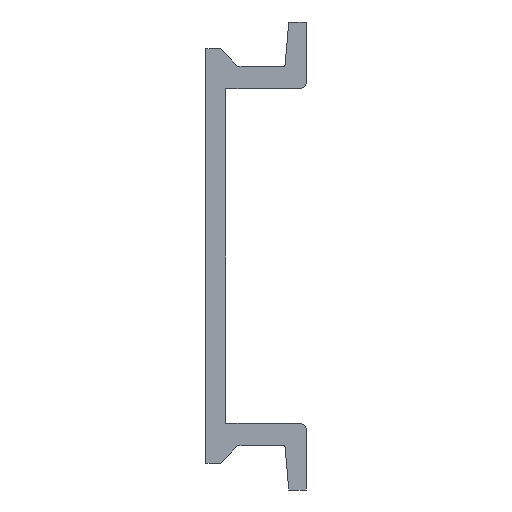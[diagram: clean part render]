
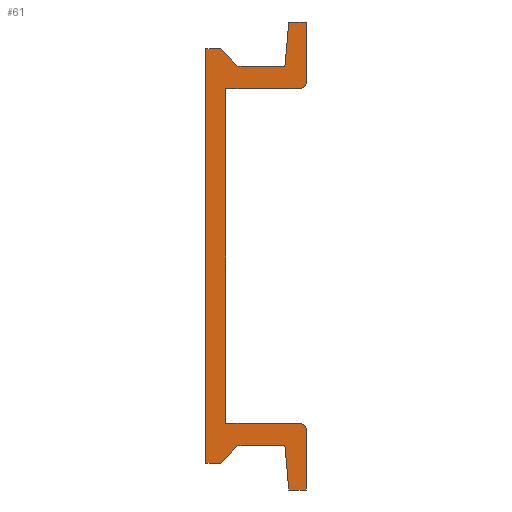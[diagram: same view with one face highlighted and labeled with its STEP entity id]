
A CAD part, left-side view. The second image highlights one B-rep face of the part: STEP entity #61.
In plain terms, the highlighted planar face has unit normal (-1, 0, 0).
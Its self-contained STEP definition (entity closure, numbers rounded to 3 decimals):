
#61=ADVANCED_FACE('',(#325),#324,.F.);
#324=PLANE('',#800);
#325=FACE_OUTER_BOUND('',#801,.T.);
#797=CARTESIAN_POINT('',(0.,-8.25,21.));
#798=DIRECTION('',(1.,0.,0.));
#799=DIRECTION('',(0.,0.,-1.));
#800=AXIS2_PLACEMENT_3D('',#797,#798,#799);
#801=EDGE_LOOP('',(#1142,#1143,#1144,#1145,#1146,#1147,#1148,#1149,#1150,#1151,#1152,#1153,#1154,#1155,#1156,#1157,#1158,#1159));
#1142=ORIENTED_EDGE('',*,*,#1303,.T.);
#1143=ORIENTED_EDGE('',*,*,#1307,.T.);
#1144=ORIENTED_EDGE('',*,*,#1423,.T.);
#1145=ORIENTED_EDGE('',*,*,#1420,.T.);
#1146=ORIENTED_EDGE('',*,*,#1417,.T.);
#1147=ORIENTED_EDGE('',*,*,#1414,.T.);
#1148=ORIENTED_EDGE('',*,*,#1411,.T.);
#1149=ORIENTED_EDGE('',*,*,#1408,.T.);
#1150=ORIENTED_EDGE('',*,*,#1405,.T.);
#1151=ORIENTED_EDGE('',*,*,#1402,.T.);
#1152=ORIENTED_EDGE('',*,*,#1365,.T.);
#1153=ORIENTED_EDGE('',*,*,#1362,.T.);
#1154=ORIENTED_EDGE('',*,*,#1359,.T.);
#1155=ORIENTED_EDGE('',*,*,#1356,.T.);
#1156=ORIENTED_EDGE('',*,*,#1353,.T.);
#1157=ORIENTED_EDGE('',*,*,#1350,.T.);
#1158=ORIENTED_EDGE('',*,*,#1347,.T.);
#1159=ORIENTED_EDGE('',*,*,#1344,.T.);
#1303=EDGE_CURVE('',#1506,#1507,#1508,.T.);
#1307=EDGE_CURVE('',#1507,#1534,#1535,.T.);
#1344=EDGE_CURVE('',#1791,#1506,#1792,.T.);
#1347=EDGE_CURVE('',#1811,#1791,#1812,.T.);
#1350=EDGE_CURVE('',#1831,#1811,#1832,.T.);
#1353=EDGE_CURVE('',#1851,#1831,#1852,.T.);
#1356=EDGE_CURVE('',#1871,#1851,#1872,.T.);
#1359=EDGE_CURVE('',#1891,#1871,#1892,.T.);
#1362=EDGE_CURVE('',#1911,#1891,#1912,.T.);
#1365=EDGE_CURVE('',#1931,#1911,#1932,.T.);
#1402=EDGE_CURVE('',#2188,#1931,#2189,.T.);
#1405=EDGE_CURVE('',#2208,#2188,#2209,.T.);
#1408=EDGE_CURVE('',#2228,#2208,#2229,.T.);
#1411=EDGE_CURVE('',#2248,#2228,#2249,.T.);
#1414=EDGE_CURVE('',#2268,#2248,#2269,.T.);
#1417=EDGE_CURVE('',#2288,#2268,#2289,.T.);
#1420=EDGE_CURVE('',#2308,#2288,#2309,.T.);
#1423=EDGE_CURVE('',#1534,#2308,#2328,.T.);
#1506=VERTEX_POINT('',#2567);
#1507=VERTEX_POINT('',#2568);
#1508=LINE('',#2569,#2570);
#1534=VERTEX_POINT('',#2583);
#1535=LINE('',#2584,#2585);
#1791=VERTEX_POINT('',#2746);
#1792=CIRCLE('',#2750,0.5);
#1811=VERTEX_POINT('',#2759);
#1812=LINE('',#2760,#2761);
#1831=VERTEX_POINT('',#2770);
#1832=LINE('',#2771,#2772);
#1851=VERTEX_POINT('',#2781);
#1852=LINE('',#2782,#2783);
#1871=VERTEX_POINT('',#2792);
#1872=LINE('',#2793,#2794);
#1891=VERTEX_POINT('',#2803);
#1892=LINE('',#2804,#2805);
#1911=VERTEX_POINT('',#2814);
#1912=LINE('',#2815,#2816);
#1931=VERTEX_POINT('',#2825);
#1932=LINE('',#2826,#2827);
#2188=VERTEX_POINT('',#2988);
#2189=LINE('',#2989,#2990);
#2208=VERTEX_POINT('',#2999);
#2209=LINE('',#3000,#3001);
#2228=VERTEX_POINT('',#3010);
#2229=LINE('',#3011,#3012);
#2248=VERTEX_POINT('',#3021);
#2249=LINE('',#3022,#3023);
#2268=VERTEX_POINT('',#3032);
#2269=LINE('',#3033,#3034);
#2288=VERTEX_POINT('',#3043);
#2289=LINE('',#3044,#3045);
#2308=VERTEX_POINT('',#3054);
#2309=CIRCLE('',#3058,0.5);
#2328=LINE('',#3067,#3068);
#2567=CARTESIAN_POINT('',(0.,-7.,-12.5));
#2568=CARTESIAN_POINT('',(0.,-1.5,-12.5));
#2569=CARTESIAN_POINT('',(0.,-7.,-12.5));
#2570=VECTOR('',#2571,5.5);
#2571=DIRECTION('',(0.,1.,0.));
#2583=CARTESIAN_POINT('',(0.,-1.5,12.5));
#2584=CARTESIAN_POINT('',(0.,-1.5,-12.5));
#2585=VECTOR('',#2586,25.);
#2586=DIRECTION('',(0.,0.,1.));
#2746=CARTESIAN_POINT('',(0.,-7.5,-13.));
#2747=CARTESIAN_POINT('',(0.,-7.,-13.));
#2748=DIRECTION('',(-1.,0.,0.));
#2749=DIRECTION('',(0.,0.,1.));
#2750=AXIS2_PLACEMENT_3D('',#2747,#2748,#2749);
#2759=CARTESIAN_POINT('',(0.,-7.5,-17.5));
#2760=CARTESIAN_POINT('',(0.,-7.5,-17.5));
#2761=VECTOR('',#2762,4.5);
#2762=DIRECTION('',(0.,0.,1.));
#2770=CARTESIAN_POINT('',(0.,-6.2,-17.5));
#2771=CARTESIAN_POINT('',(0.,-6.2,-17.5));
#2772=VECTOR('',#2773,1.3);
#2773=DIRECTION('',(0.,-1.,0.));
#2781=CARTESIAN_POINT('',(0.,-5.911,-14.2));
#2782=CARTESIAN_POINT('',(0.,-5.911,-14.2));
#2783=VECTOR('',#2784,3.313);
#2784=DIRECTION('',(0.,-0.087,-0.996));
#2792=CARTESIAN_POINT('',(0.,-2.4,-14.2));
#2793=CARTESIAN_POINT('',(0.,-2.4,-14.2));
#2794=VECTOR('',#2795,3.511);
#2795=DIRECTION('',(0.,-1.,0.));
#2803=CARTESIAN_POINT('',(0.,-1.1,-15.5));
#2804=CARTESIAN_POINT('',(0.,-1.1,-15.5));
#2805=VECTOR('',#2806,1.838);
#2806=DIRECTION('',(0.,-0.707,0.707));
#2814=CARTESIAN_POINT('',(0.,0.,-15.5));
#2815=CARTESIAN_POINT('',(0.,0.,-15.5));
#2816=VECTOR('',#2817,1.1);
#2817=DIRECTION('',(0.,-1.,0.));
#2825=CARTESIAN_POINT('',(0.,0.,15.5));
#2826=CARTESIAN_POINT('',(0.,0.,15.5));
#2827=VECTOR('',#2828,31.);
#2828=DIRECTION('',(0.,0.,-1.));
#2988=CARTESIAN_POINT('',(0.,-1.1,15.5));
#2989=CARTESIAN_POINT('',(0.,-1.1,15.5));
#2990=VECTOR('',#2991,1.1);
#2991=DIRECTION('',(0.,1.,0.));
#2999=CARTESIAN_POINT('',(0.,-2.4,14.2));
#3000=CARTESIAN_POINT('',(0.,-2.4,14.2));
#3001=VECTOR('',#3002,1.838);
#3002=DIRECTION('',(0.,0.707,0.707));
#3010=CARTESIAN_POINT('',(0.,-5.911,14.2));
#3011=CARTESIAN_POINT('',(0.,-5.911,14.2));
#3012=VECTOR('',#3013,3.511);
#3013=DIRECTION('',(0.,1.,0.));
#3021=CARTESIAN_POINT('',(0.,-6.2,17.5));
#3022=CARTESIAN_POINT('',(0.,-6.2,17.5));
#3023=VECTOR('',#3024,3.313);
#3024=DIRECTION('',(0.,0.087,-0.996));
#3032=CARTESIAN_POINT('',(0.,-7.5,17.5));
#3033=CARTESIAN_POINT('',(0.,-7.5,17.5));
#3034=VECTOR('',#3035,1.3);
#3035=DIRECTION('',(0.,1.,0.));
#3043=CARTESIAN_POINT('',(0.,-7.5,13.));
#3044=CARTESIAN_POINT('',(0.,-7.5,13.));
#3045=VECTOR('',#3046,4.5);
#3046=DIRECTION('',(0.,0.,1.));
#3054=CARTESIAN_POINT('',(0.,-7.,12.5));
#3055=CARTESIAN_POINT('',(0.,-7.,13.));
#3056=DIRECTION('',(-1.,0.,0.));
#3057=DIRECTION('',(0.,0.,1.));
#3058=AXIS2_PLACEMENT_3D('',#3055,#3056,#3057);
#3067=CARTESIAN_POINT('',(0.,-1.5,12.5));
#3068=VECTOR('',#3069,5.5);
#3069=DIRECTION('',(0.,-1.,0.));
